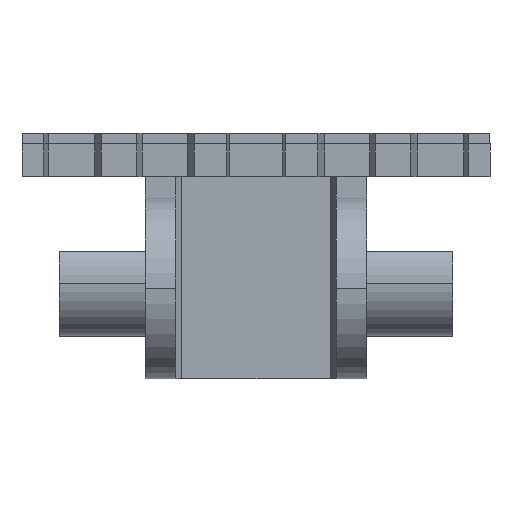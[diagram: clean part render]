
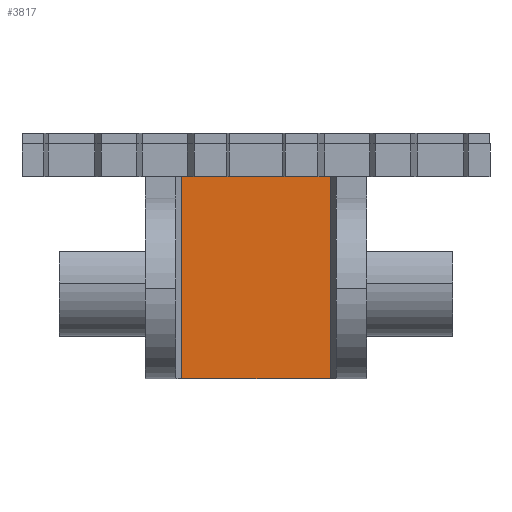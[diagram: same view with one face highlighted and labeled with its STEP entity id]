
A CAD part, front view. The second image highlights one B-rep face of the part: STEP entity #3817.
In plain terms, the highlighted planar face has unit normal (0, -1, 0).
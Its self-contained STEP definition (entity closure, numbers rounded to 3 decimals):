
#630 = DIRECTION ( 'NONE',  ( 1., 0., 0. ) ) ;
#631 = VECTOR ( 'NONE', #630, 1000. ) ;
#636 = CARTESIAN_POINT ( 'NONE',  ( 170.85, 133.6, -18.358 ) ) ;
#661 = LINE ( 'NONE', #636, #631 ) ;
#713 = DIRECTION ( 'NONE',  ( 0., 1., 0. ) ) ;
#714 = CARTESIAN_POINT ( 'NONE',  ( 170.85, 133.6, -18.358 ) ) ;
#715 = FACE_OUTER_BOUND ( 'NONE', #3867, .T. ) ;
#718 = DIRECTION ( 'NONE',  ( 0., 0., 1. ) ) ;
#719 = VECTOR ( 'NONE', #718, 1000. ) ;
#720 = CARTESIAN_POINT ( 'NONE',  ( 171.4, 133.6, 0.642 ) ) ;
#724 = DIRECTION ( 'NONE',  ( 0., 0., 1. ) ) ;
#733 = AXIS2_PLACEMENT_3D ( 'NONE', #714, #713, #724 ) ;
#741 = PLANE ( 'NONE',  #733 ) ;
#776 = CARTESIAN_POINT ( 'NONE',  ( 185.4, 133.6, 0.642 ) ) ;
#777 = LINE ( 'NONE', #776, #719 ) ;
#881 = DIRECTION ( 'NONE',  ( 0., 0., -1. ) ) ;
#882 = VECTOR ( 'NONE', #881, 1000. ) ;
#924 = CARTESIAN_POINT ( 'NONE',  ( 171.4, 133.6, -18.358 ) ) ;
#925 = LINE ( 'NONE', #924, #882 ) ;
#929 = DIRECTION ( 'NONE',  ( 1., 0., 0. ) ) ;
#930 = VECTOR ( 'NONE', #929, 1000. ) ;
#931 = CARTESIAN_POINT ( 'NONE',  ( 170.85, 133.6, 0.642 ) ) ;
#932 = LINE ( 'NONE', #931, #930 ) ;
#977 = CARTESIAN_POINT ( 'NONE',  ( 185.4, 133.6, 0.642 ) ) ;
#2515 = CARTESIAN_POINT ( 'NONE',  ( 171.4, 133.6, -18.358 ) ) ;
#2521 = CARTESIAN_POINT ( 'NONE',  ( 185.4, 133.6, -18.358 ) ) ;
#3386 = VERTEX_POINT ( 'NONE', #2515 ) ;
#3388 = VERTEX_POINT ( 'NONE', #2521 ) ;
#3715 = EDGE_CURVE ( 'NONE', #3386, #3388, #661, .T. ) ;
#3815 = EDGE_CURVE ( 'NONE', #3388, #3884, #777, .T. ) ;
#3816 = VERTEX_POINT ( 'NONE', #720 ) ;
#3817 = ADVANCED_FACE ( 'NONE', ( #715 ), #741, .F. ) ;
#3867 = EDGE_LOOP ( 'NONE', ( #3904, #3885, #3888, #3887 ) ) ;
#3884 = VERTEX_POINT ( 'NONE', #977 ) ;
#3885 = ORIENTED_EDGE ( 'NONE', *, *, #3815, .T. ) ;
#3886 = EDGE_CURVE ( 'NONE', #3816, #3884, #932, .T. ) ;
#3887 = ORIENTED_EDGE ( 'NONE', *, *, #3889, .T. ) ;
#3888 = ORIENTED_EDGE ( 'NONE', *, *, #3886, .F. ) ;
#3889 = EDGE_CURVE ( 'NONE', #3816, #3386, #925, .T. ) ;
#3904 = ORIENTED_EDGE ( 'NONE', *, *, #3715, .T. ) ;
